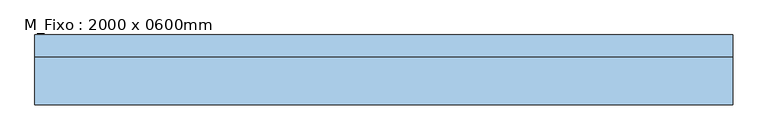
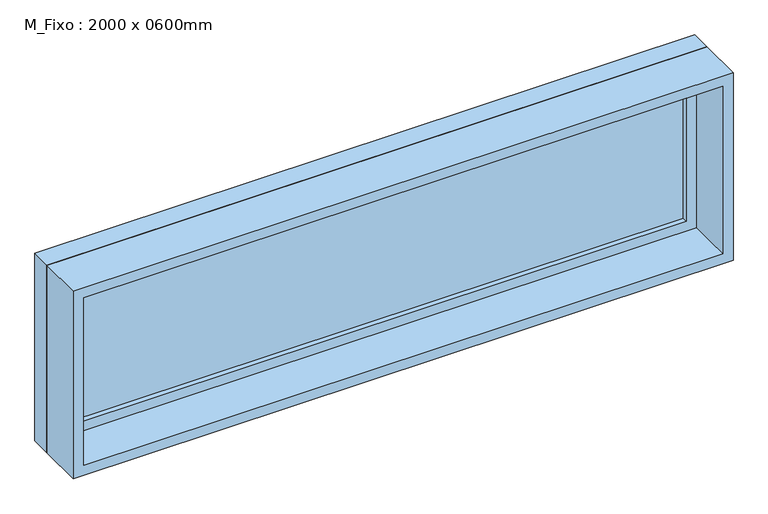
"""IFC4 building model written with IfcOpenShell, lengths in millimetres: window geometry, M_Fixo : 2000 x 0600mm."""

from ifc_helpers import new_model, si_unit, frame, origin, place, context, project, spatial, polyline, outline, extrude, source, transform, mapped, element, save


def m_fixo_2000_x_0600mm_7e42a1bc(model_context):
    return source(origin(), model_context, "Body", "SweptSolid", [
        extrude(outline(polyline([(-937.0, 78.0), (937.0, 78.0), (937.0, 66.0), (-937.0, 66.0), (-937.0, 78.0)])), frame((0.0, 0.0, 1863.0), z_axis=(0.0, 0.0, 1.0), x_axis=(1.0, 0.0, 0.0)), (0.0, 0.0, 1.0), 474.0),
        extrude(outline(polyline([(2381.0, -981.0), (1819.0, -981.0), (1819.0, 981.0), (2381.0, 981.0), (2381.0, -981.0)]), holes=[polyline([(2337.0, -937.0), (2337.0, 937.0), (1863.0, 937.0), (1863.0, -937.0), (2337.0, -937.0)])]), frame((0.0, 50.0, 0.0), z_axis=(0.0, 1.0, 0.0), x_axis=(0.0, 0.0, 1.0)), (0.0, 0.0, 1.0), 44.0),
        extrude(outline(polyline([(2400.0, -1000.0), (1800.0, -1000.0), (1800.0, 1000.0), (2400.0, 1000.0), (2400.0, -1000.0)]), holes=[polyline([(2381.0, -981.0), (2381.0, 981.0), (1819.0, 981.0), (1819.0, -981.0), (2381.0, -981.0)])]), frame((0.0, 50.0, 0.0), z_axis=(0.0, 1.0, 0.0), x_axis=(0.0, 0.0, 1.0)), (0.0, 0.0, 1.0), 63.0),
        extrude(outline(polyline([(2400.0, -1000.0), (1800.0, -1000.0), (1800.0, 1000.0), (2400.0, 1000.0), (2400.0, -1000.0)]), holes=[polyline([(2368.0, -968.0), (2368.0, 968.0), (1832.0, 968.0), (1832.0, -968.0), (2368.0, -968.0)])]), frame((0.0, -87.0, 0.0), z_axis=(0.0, 1.0, 0.0), x_axis=(0.0, 0.0, 1.0)), (0.0, 0.0, 1.0), 137.0),
    ])


if __name__ == "__main__":
    model = new_model("IFC4")
    model_context = context("Model", 3, world=origin())
    ifc_project = project(units=[si_unit("LENGTHUNIT", "METRE", prefix="MILLI")], contexts=[model_context])
    site = spatial("IfcSite", under=ifc_project)
    building = spatial("IfcBuilding", under=site)
    placement = place(None, origin())
    m_fixo_2000_x_0600mm_shape = m_fixo_2000_x_0600mm_7e42a1bc(model_context)
    element("IfcWindow", 1, ObjectType="M_Fixo : 2000 x 0600mm", at=placement, inside=building, context=model_context, shape_type="MappedRepresentation", body=[
        mapped(m_fixo_2000_x_0600mm_shape, transform((0.0, 0.0, 0.0), x_axis=(1.0, 0.0, 0.0), y_axis=(0.0, 1.0, 0.0), z_axis=(0.0, 0.0, 1.0))),
    ])
    save(model, "model.ifc")
